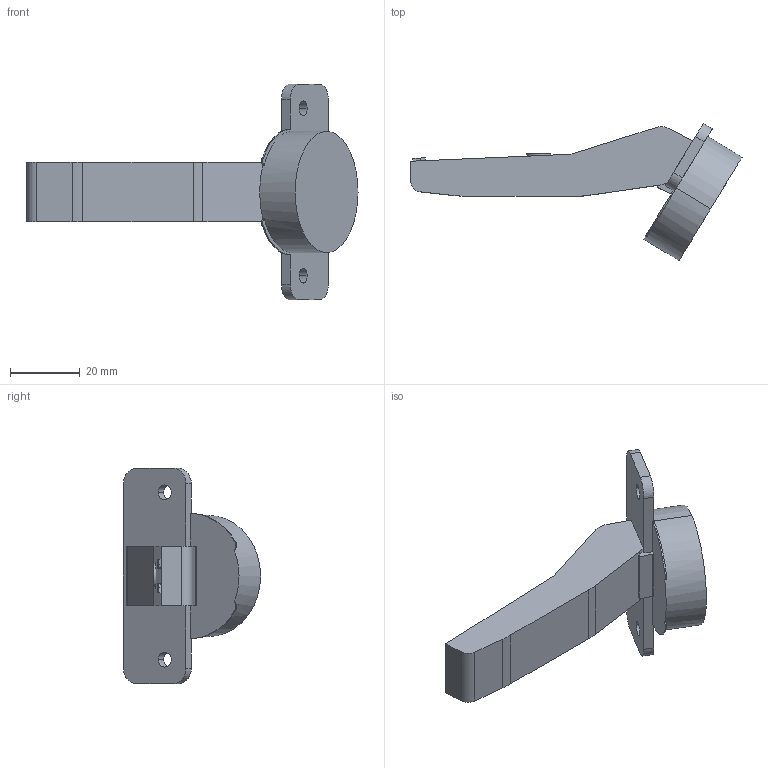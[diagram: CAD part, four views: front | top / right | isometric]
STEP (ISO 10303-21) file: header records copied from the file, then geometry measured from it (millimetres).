
FILE_DESCRIPTION (( 'STEP AP203' ), '1' );
FILE_NAME ('C82W276F-DTC 3D close.STEP', '2024-09-09T06:44:51', ( '微软用户' ), ( '微软中国' ), 'SwSTEP 2.0', 'SolidWorks 2021', '' );
FILE_SCHEMA (( 'CONFIG_CONTROL_DESIGN' ));
Length unit declared in the file: millimetre
Products named in the file (1): C82W276F-DTC 3D close
Bounding box: 95.38 x 39.39 x 61.96 mm (x, y, z)
Volume: 31605.1 mm3; surface area: 9813.3 mm2
Topology: 1 solids, 1 shells, 76 faces, 212 edges, 142 vertices
Faces by surface type: cylinder 36, plane 36, bspline 4
Entity records: 2577 total; most frequent: CARTESIAN_POINT 519, ORIENTED_EDGE 424, DIRECTION 408, EDGE_CURVE 212, VERTEX_POINT 142, AXIS2_PLACEMENT_3D 141, VECTOR 126, LINE 126
